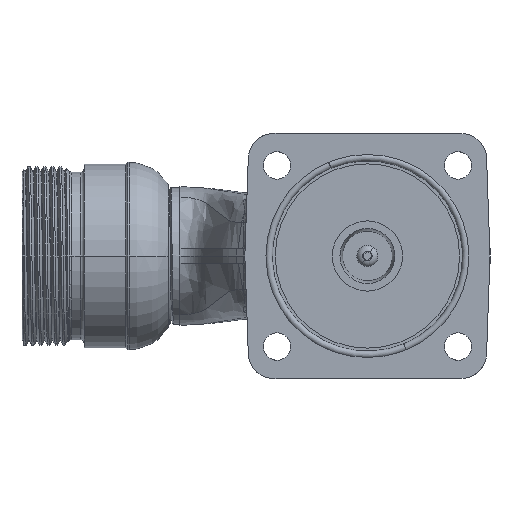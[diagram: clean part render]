
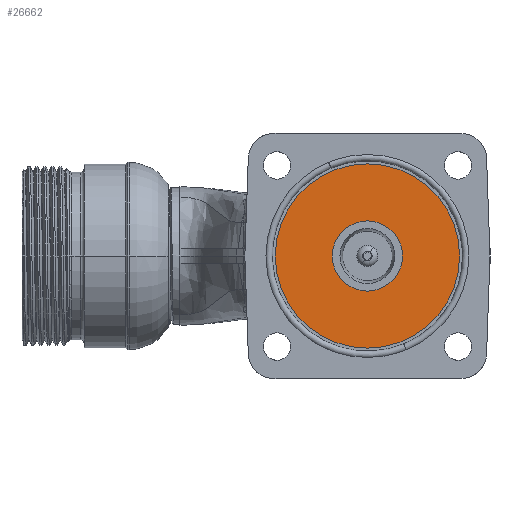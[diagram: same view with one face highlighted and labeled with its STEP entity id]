
A CAD part, front view. The second image highlights one B-rep face of the part: STEP entity #26662.
In plain terms, the highlighted planar face has unit normal (0, -1, 0).
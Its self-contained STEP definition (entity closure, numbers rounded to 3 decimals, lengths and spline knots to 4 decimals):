
#97 = CARTESIAN_POINT ( 'NONE',  ( 0., 0., -0.6 ) ) ;
#1597 = EDGE_CURVE ( 'NONE', #38862, #25034, #14717, .T. ) ;
#1906 = VERTEX_POINT ( 'NONE', #22297 ) ;
#3054 = EDGE_CURVE ( 'NONE', #25034, #38862, #45189, .T. ) ;
#3205 = EDGE_CURVE ( 'NONE', #22954, #1906, #5695, .T. ) ;
#3315 = ORIENTED_EDGE ( 'NONE', *, *, #3054, .F. ) ;
#5695 = CIRCLE ( 'NONE', #36092, 1.575 ) ;
#7872 = AXIS2_PLACEMENT_3D ( 'NONE', #23930, #41734, #13666 ) ;
#13666 = DIRECTION ( 'NONE',  ( 0., 0., 1. ) ) ;
#14717 = CIRCLE ( 'NONE', #29161, 0.6 ) ;
#15129 = ORIENTED_EDGE ( 'NONE', *, *, #27448, .T. ) ;
#15662 = CARTESIAN_POINT ( 'NONE',  ( 0., 0., 0.6 ) ) ;
#16051 = AXIS2_PLACEMENT_3D ( 'NONE', #39267, #20758, #17433 ) ;
#17347 = CARTESIAN_POINT ( 'NONE',  ( 0., 0., 0. ) ) ;
#17433 = DIRECTION ( 'NONE',  ( 0., 0., -1. ) ) ;
#18042 = ORIENTED_EDGE ( 'NONE', *, *, #1597, .F. ) ;
#20116 = FACE_OUTER_BOUND ( 'NONE', #38055, .T. ) ;
#20758 = DIRECTION ( 'NONE',  ( 0., -1., 0. ) ) ;
#22297 = CARTESIAN_POINT ( 'NONE',  ( 0., 0., 1.575 ) ) ;
#22676 = EDGE_LOOP ( 'NONE', ( #18042, #3315 ) ) ;
#22954 = VERTEX_POINT ( 'NONE', #33767 ) ;
#23930 = CARTESIAN_POINT ( 'NONE',  ( -2.5, 0., -2.5 ) ) ;
#25034 = VERTEX_POINT ( 'NONE', #15662 ) ;
#26350 = DIRECTION ( 'NONE',  ( 0., -1., 0. ) ) ;
#26662 = ADVANCED_FACE ( 'NONE', ( #29633, #20116 ), #42041, .F. ) ;
#27448 = EDGE_CURVE ( 'NONE', #1906, #22954, #34121, .T. ) ;
#28952 = DIRECTION ( 'NONE',  ( 0., 0., -1. ) ) ;
#29108 = CARTESIAN_POINT ( 'NONE',  ( 0., 0., 0. ) ) ;
#29161 = AXIS2_PLACEMENT_3D ( 'NONE', #40841, #26350, #29827 ) ;
#29633 = FACE_BOUND ( 'NONE', #22676, .T. ) ;
#29827 = DIRECTION ( 'NONE',  ( 0., 0., -1. ) ) ;
#31851 = DIRECTION ( 'NONE',  ( 0., 0., -1. ) ) ;
#33767 = CARTESIAN_POINT ( 'NONE',  ( 0., 0., -1.575 ) ) ;
#34121 = CIRCLE ( 'NONE', #16051, 1.575 ) ;
#36092 = AXIS2_PLACEMENT_3D ( 'NONE', #29108, #39950, #28952 ) ;
#38055 = EDGE_LOOP ( 'NONE', ( #39214, #15129 ) ) ;
#38862 = VERTEX_POINT ( 'NONE', #97 ) ;
#39214 = ORIENTED_EDGE ( 'NONE', *, *, #3205, .T. ) ;
#39267 = CARTESIAN_POINT ( 'NONE',  ( 0., 0., 0. ) ) ;
#39420 = AXIS2_PLACEMENT_3D ( 'NONE', #17347, #42695, #31851 ) ;
#39950 = DIRECTION ( 'NONE',  ( 0., -1., 0. ) ) ;
#40841 = CARTESIAN_POINT ( 'NONE',  ( 0., 0., 0. ) ) ;
#41734 = DIRECTION ( 'NONE',  ( 0., 1., 0. ) ) ;
#42041 = PLANE ( 'NONE',  #7872 ) ;
#42695 = DIRECTION ( 'NONE',  ( 0., -1., 0. ) ) ;
#45189 = CIRCLE ( 'NONE', #39420, 0.6 ) ;
